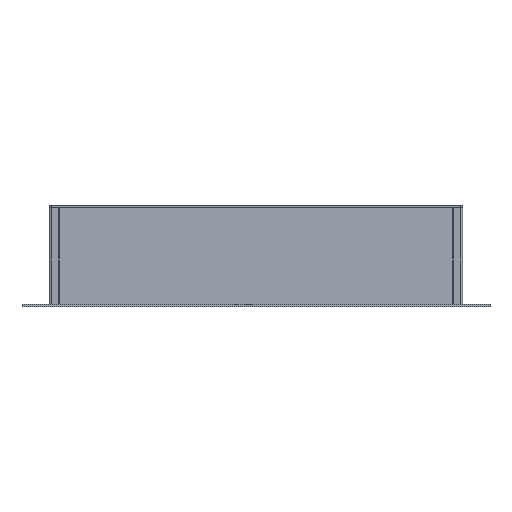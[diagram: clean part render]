
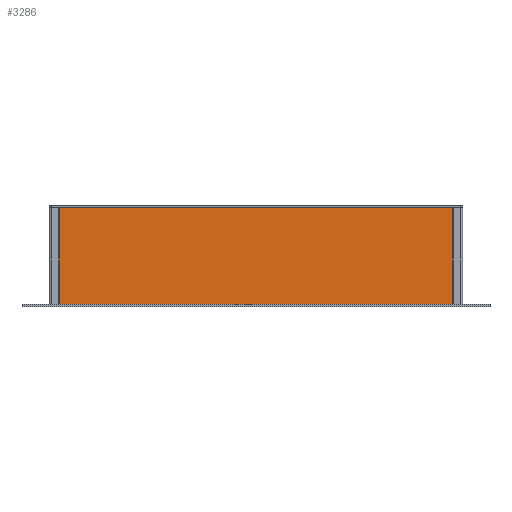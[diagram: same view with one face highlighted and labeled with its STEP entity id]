
A CAD part, top view. The second image highlights one B-rep face of the part: STEP entity #3286.
In plain terms, the highlighted planar face has unit normal (0, 0, 1).
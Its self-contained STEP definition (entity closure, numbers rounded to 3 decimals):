
#230=PLANE('',#3643);
#398=FACE_OUTER_BOUND('',#594,.T.);
#594=EDGE_LOOP('',(#3043,#3044,#3045,#3046));
#910=LINE('',#5476,#1254);
#917=LINE('',#5491,#1261);
#918=LINE('',#5493,#1262);
#919=LINE('',#5494,#1263);
#1254=VECTOR('',#4521,10.);
#1261=VECTOR('',#4534,10.);
#1262=VECTOR('',#4535,10.);
#1263=VECTOR('',#4536,10.);
#1698=VERTEX_POINT('',#5470);
#1700=VERTEX_POINT('',#5474);
#1705=VERTEX_POINT('',#5490);
#1706=VERTEX_POINT('',#5492);
#2150=EDGE_CURVE('',#1698,#1700,#910,.T.);
#2157=EDGE_CURVE('',#1705,#1698,#917,.T.);
#2158=EDGE_CURVE('',#1706,#1700,#918,.T.);
#2159=EDGE_CURVE('',#1705,#1706,#919,.T.);
#3043=ORIENTED_EDGE('',*,*,#2157,.T.);
#3044=ORIENTED_EDGE('',*,*,#2150,.T.);
#3045=ORIENTED_EDGE('',*,*,#2158,.F.);
#3046=ORIENTED_EDGE('',*,*,#2159,.F.);
#3286=ADVANCED_FACE('',(#398),#230,.T.);
#3643=AXIS2_PLACEMENT_3D('',#5489,#4532,#4533);
#4521=DIRECTION('',(0.,1.,0.));
#4532=DIRECTION('center_axis',(0.,0.,1.));
#4533=DIRECTION('ref_axis',(1.,0.,0.));
#4534=DIRECTION('',(1.,0.,0.));
#4535=DIRECTION('',(1.,0.,0.));
#4536=DIRECTION('',(0.,1.,0.));
#5470=CARTESIAN_POINT('',(444.6,0.,-19.3));
#5474=CARTESIAN_POINT('',(444.6,100.,-19.3));
#5476=CARTESIAN_POINT('',(444.6,0.,-19.3));
#5489=CARTESIAN_POINT('Origin',(38.4,0.,-19.3));
#5490=CARTESIAN_POINT('',(38.4,0.,-19.3));
#5491=CARTESIAN_POINT('',(38.4,0.,-19.3));
#5492=CARTESIAN_POINT('',(38.4,100.,-19.3));
#5493=CARTESIAN_POINT('',(38.4,100.,-19.3));
#5494=CARTESIAN_POINT('',(38.4,0.,-19.3));
